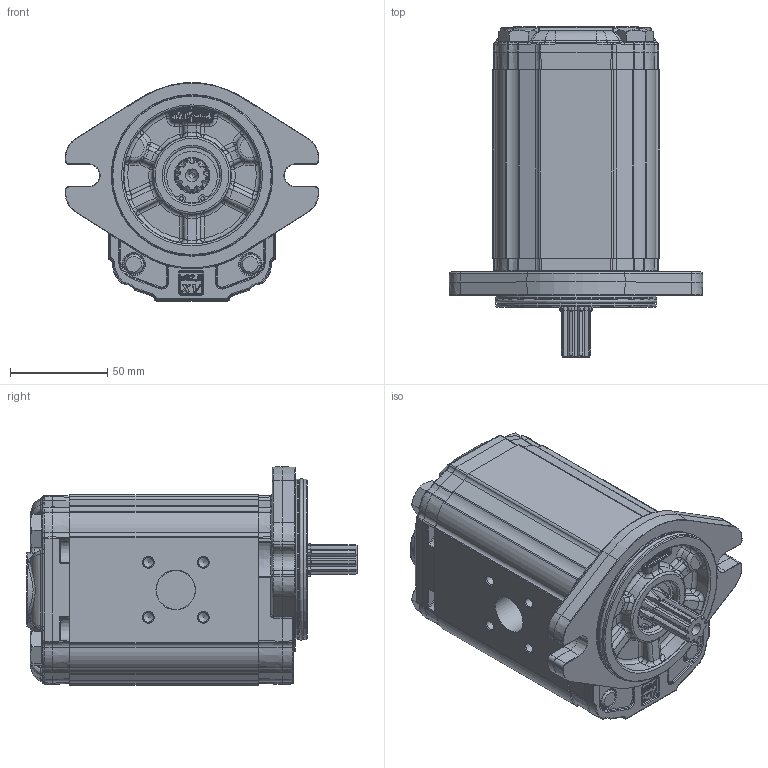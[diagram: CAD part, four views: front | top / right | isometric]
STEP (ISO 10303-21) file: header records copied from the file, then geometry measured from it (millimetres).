
FILE_DESCRIPTION(/* description */ ('Unknown'),/* implementation_level */ '2;1');
FILE_NAME(/* name */ 'X2M6131ISSE',/* time_stamp */ '2026-06-03T18:41:45+02:00',/* author */ ('Unknown'),/* organization */ ('Unknown'),/* preprocessor_version */ 'ST-DEVELOPER v16.7',/* originating_system */ 'Solid Edge',/* authorisation */ 'Unknown');
FILE_SCHEMA (('AUTOMOTIVE_DESIGN {1 0 10303 214 3 1 1}'));
Products named in the file (5): X2M6131ISSE; X2M31; 2I; X2SSH97; XM219-E
Assembly tree (4 placements, depth 2):
  X2M6131ISSE
    X2M31
    2I
    X2SSH97
    XM219-E
Bounding box: 130.38 x 169.7 x 112.3 mm (x, y, z)
Volume: 1014846.4 mm3; surface area: 136785.9 mm2
Topology: 4 solids, 12 shells, 2390 faces, 5825 edges, 3452 vertices
Faces by surface type: cylinder 681, bspline 567, plane 535, cone 280, torus 225, sphere 102
Full cylindrical faces by diameter (mm): 2 x2, 5 x8, 8.5 x6, 10 x8, 10.5 x8, 11.445 x1, 16 x4, 17.42 x1, 18 x1, 20 x2, 20.595 x1, 23.332 x1, 25 x1, 25.834 x1, 28.5 x1, 28.56 x1, 28.57 x1, 28.8 x1, 30.4 x1, 79.6 x2, 82.5 x2
Entity records: 111929 total; most frequent: CARTESIAN_POINT 45634, ORIENTED_EDGE 10950, DIRECTION 9566, EDGE_CURVE 5475, AXIS2_PLACEMENT_3D 3953, VERTEX_POINT 3369, FACE_BOUND 2670, EDGE_LOOP 2660
